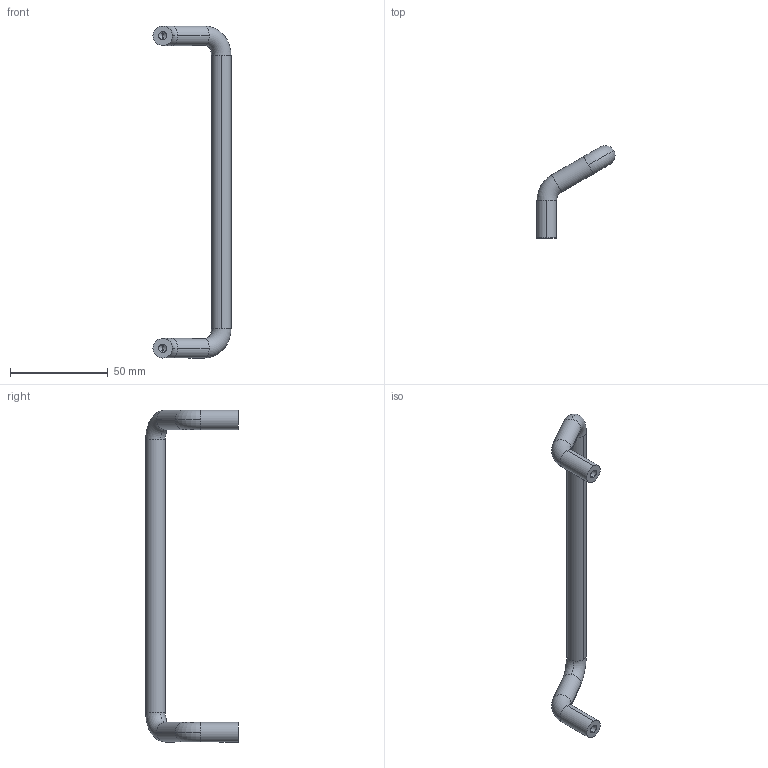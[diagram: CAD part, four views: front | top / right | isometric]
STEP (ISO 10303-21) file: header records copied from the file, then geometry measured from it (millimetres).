
FILE_DESCRIPTION (( 'STEP AP203' ), '1' );
FILE_NAME ('E07-507160.STEP', '2024-10-29T05:54:55', ( '' ), ( '' ), 'SwSTEP 2.0', 'SolidWorks 2021', '' );
FILE_SCHEMA (( 'CONFIG_CONTROL_DESIGN' ));
Length unit declared in the file: millimetre
Products named in the file (1): E07-507160
Bounding box: 40 x 47.32 x 170 mm (x, y, z)
Volume: 20719.8 mm3; surface area: 8941.4 mm2
Topology: 1 solids, 1 shells, 28 faces, 70 edges, 42 vertices
Faces by surface type: cylinder 14, torus 8, cone 4, plane 2
Entity records: 907 total; most frequent: DIRECTION 172, CARTESIAN_POINT 137, ORIENTED_EDGE 132, AXIS2_PLACEMENT_3D 77, EDGE_CURVE 66, CIRCLE 48, VERTEX_POINT 42, EDGE_LOOP 30
